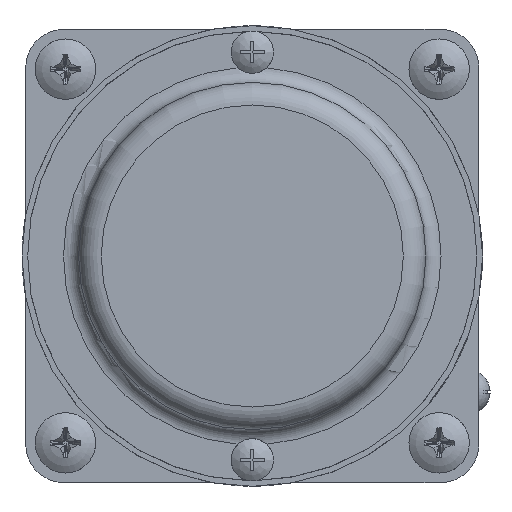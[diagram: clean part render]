
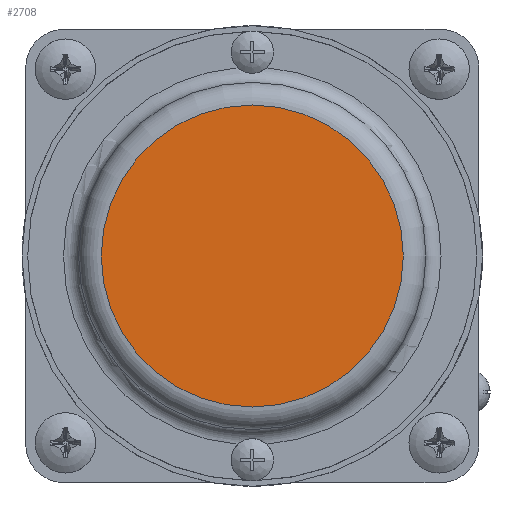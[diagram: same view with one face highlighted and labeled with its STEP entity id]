
A CAD part, left-side view. The second image highlights one B-rep face of the part: STEP entity #2708.
In plain terms, the highlighted planar face has unit normal (-1, 0, 0).
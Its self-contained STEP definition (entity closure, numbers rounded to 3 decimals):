
#1941=PLANE('',#7801);
#2708=ADVANCED_FACE('',(#3096),#1941,.T.);
#3096=FACE_OUTER_BOUND('',#3585,.T.);
#3585=EDGE_LOOP('',(#5105));
#5105=ORIENTED_EDGE('',*,*,#6709,.T.);
#5908=VERTEX_POINT('',#12550);
#6709=EDGE_CURVE('',#5908,#5908,#7266,.T.);
#7266=CIRCLE('',#7800,20.);
#7800=AXIS2_PLACEMENT_3D('',#12549,#9018,#9019);
#7801=AXIS2_PLACEMENT_3D('',#12551,#9020,#9021);
#9018=DIRECTION('',(-1.,0.,0.));
#9019=DIRECTION('',(0.,-1.,0.));
#9020=DIRECTION('',(-1.,0.,0.));
#9021=DIRECTION('',(0.,-1.,0.));
#12549=CARTESIAN_POINT('',(-86.,0.,0.));
#12550=CARTESIAN_POINT('',(-86.,-20.,0.));
#12551=CARTESIAN_POINT('',(-86.,0.,0.));
